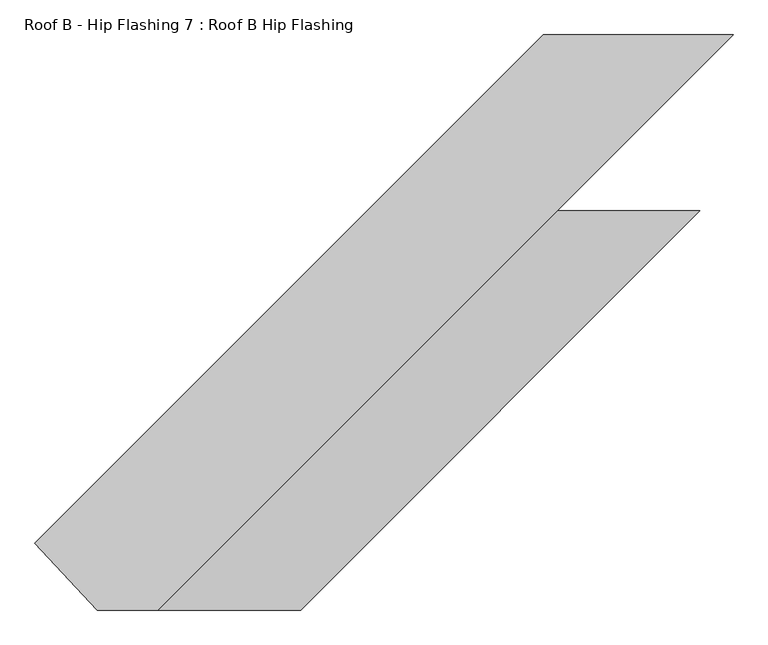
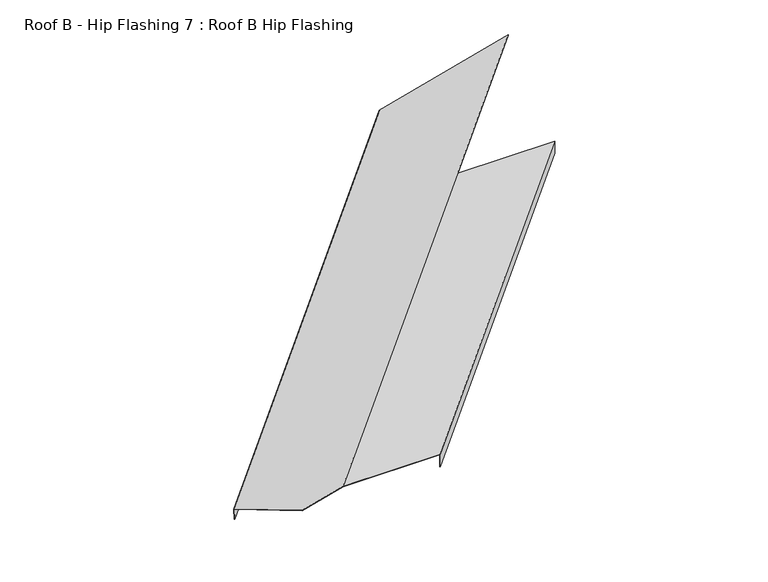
"""IFC4 building model written with IfcOpenShell, lengths in millimetres: proxy geometry, Roof B - Hip Flashing 7 : Roof B Hip Flashing."""

from ifc_helpers import new_model, si_unit, origin, place, context, project, spatial, faceted_brep, source, transform, mapped, element, save


def roof_b_hip_flashing_7_roof_b_hip_flashing_3261cca3(model_context):
    return source(origin(), model_context, "Body", "Brep", [
        faceted_brep([(-5214.652778, -13785.6625684, 3218.0023302), (-5208.8854645, -13779.895255, 3174.9545168), (-5207.7540937, -13781.0266259, 3174.9545168), (-5213.3463834, -13786.6189156, 3216.6959357), (-5066.6090718, -13943.8914922, 3256.0140798), (-5067.0231823, -13943.8914922, 3257.5595611), (-4011.8953273, -12582.9051178, 3540.2802178), (-4011.8953273, -12582.9051178, 3495.6870574), (-4923.3685857, -13943.8914922, 3296.0516943), (-3979.0514308, -12999.5743373, 3549.0807133), (-3562.3748901, -12582.9129646, 3660.7288559), (-4585.0876137, -13943.8914922, 3296.0516943), (-3640.7704588, -12999.5743373, 3549.0807133), (-4585.0876137, -13943.8914922, 3250.2511023), (-3640.7704588, -12999.5743373, 3503.2801213), (-4587.3503554, -13943.8914922, 3249.9479524), (-3643.0332005, -12999.5743373, 3502.9769714), (-4009.6325856, -12582.9051178, 3495.9902073), (-4587.3503554, -13943.8914922, 3294.3952524), (-3643.0332005, -12999.5743373, 3547.4242715), (-4923.3685857, -13943.8914922, 3294.3952524), (-3979.0514308, -12999.5743373, 3547.4242715), (-4009.6325856, -12582.9051178, 3539.2300757), (-3562.3822113, -12582.9051178, 3659.0704523)], [[[0, 1, 2, 3, 4, 5]], [[1, 0, 6, 7]], [[0, 5, 8, 9, 10, 6]], [[8, 11, 12, 9]], [[11, 13, 14, 12]], [[13, 15, 16, 14]], [[2, 1, 7, 17]], [[15, 18, 19, 16]], [[18, 20, 21, 19]], [[4, 3, 22, 23, 21, 20]], [[3, 2, 17, 22]], [[5, 4, 20, 18, 15, 13, 11, 8]], [[7, 6, 10, 23, 22, 17]], [[9, 21, 23, 10]], [[21, 9, 12, 14, 16, 19]]]),
    ])


if __name__ == "__main__":
    model = new_model("IFC4")
    model_context = context("Model", 3, world=origin())
    ifc_project = project(units=[si_unit("LENGTHUNIT", "METRE", prefix="MILLI")], contexts=[model_context])
    site = spatial("IfcSite", under=ifc_project)
    building = spatial("IfcBuilding", under=site)
    placement = place(None, origin())
    roof_b_hip_flashing_7_roof_b_hip_flashing_shape = roof_b_hip_flashing_7_roof_b_hip_flashing_3261cca3(model_context)
    element("IfcBuildingElementProxy", 1, Name="Roof B - Hip Flashing 7 : Roof B Hip Flashing", ObjectType="Roof B - Hip Flashing 7 : Roof B Hip Flashing", at=placement, inside=building, context=model_context, shape_type="MappedRepresentation", body=[
        mapped(roof_b_hip_flashing_7_roof_b_hip_flashing_shape, transform((0.0, 0.0, 0.0), x_axis=(1.0, 0.0, 0.0), y_axis=(0.0, 1.0, 0.0), z_axis=(0.0, 0.0, 1.0))),
    ])
    save(model, "model.ifc")
